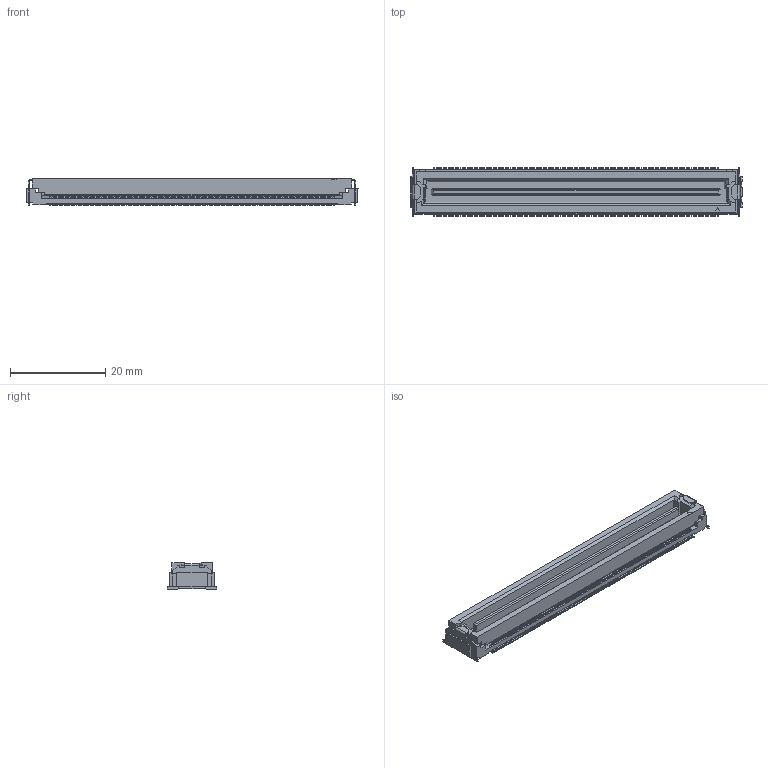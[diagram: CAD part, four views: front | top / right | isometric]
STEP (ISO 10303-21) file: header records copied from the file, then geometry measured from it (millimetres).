
FILE_DESCRIPTION(('Creo Elements/Direct Modeling STEP Export'),'2;1');
FILE_NAME('P3D071_DT0202400T.stp','2017-08-08T20:28:41',(''),(''),'Creo Elements/Direct Modeling STEP processor for AP214 (Solid Model)','Creo Elements/Direct Modeling 19.0F 14-Feb-2017 (C) Parametric Technology GmbH','');
FILE_SCHEMA(('AUTOMOTIVE_DESIGN { 1 0 10303 214 1 1 1 1 }'));
Products named in the file (2): DT00-240S-TR-T
Assembly tree (1 placements, depth 2):
  DT00-240S-TR-T
    DT00-240S-TR-T
Bounding box: 69.7 x 10.38 x 5.5 mm (x, y, z)
Volume: 2005.2 mm3; surface area: 4220.9 mm2
Topology: 1 solids, 1 shells, 6732 faces, 18483 edges, 11994 vertices
Faces by surface type: plane 5276, cylinder 1456
Entity records: 208449 total; most frequent: ORIENTED_EDGE 36966, CARTESIAN_POINT 36297, DIRECTION 33462, EDGE_CURVE 18483, VECTOR 15144, LINE 15144, VERTEX_POINT 11994, AXIS2_PLACEMENT_3D 9159
